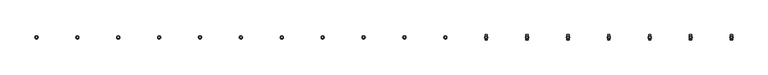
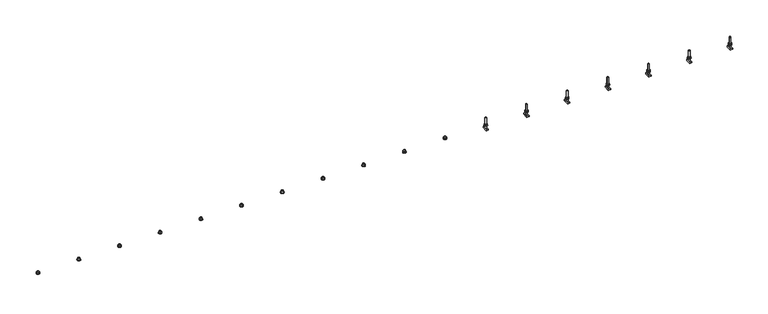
"""IFC4 building model written with IfcOpenShell, lengths in millimetres: fastener geometry, JTA-K JORDAHL® AnchorChannels : JTA-K L=6000 mm."""

from ifc_helpers import new_model, si_unit, point, frame, frame_2d, origin, place, context, project, spatial, polyline, circle_curve, trimmed, segment, composite_curve, outline, extrude, source, transform, mapped, element, save
from ifc_brep_helpers import plane_surface, cylinder_surface, advanced_brep


def fastener_529edd93(model_context):
    return source(origin(), model_context, "Body", "SolidModel", [
        extrude(outline(polyline([(5617.1052632, -10.3923048), (5608.1052632, -5.1961524), (5608.1052632, 5.1961524), (5617.1052632, 10.3923048), (5626.1052632, 5.1961524), (5626.1052632, -5.1961524), (5617.1052632, -10.3923048)]), holes=[composite_curve([segment(trimmed(circle_curve(frame_2d((5617.1052632, 0.0)), 6.0), [point((5611.1052632, 0.0))], [point((5623.1052632, 0.0))], True, "CARTESIAN"), True, "CONTINUOUS"), segment(trimmed(circle_curve(frame_2d((5617.1052632, 0.0)), 6.0), [point((5623.1052632, 0.0))], [point((5611.1052632, 0.0))], True, "CARTESIAN"), True, "CONTINUOUS")], self_intersect=False)]), frame((0.0, 0.0, 17.5), z_axis=(0.0, 0.0, 1.0), x_axis=(1.0, 0.0, 0.0)), (0.0, 0.0, 1.0), 10.8),
        extrude(outline(composite_curve([segment(trimmed(circle_curve(frame_2d((5617.1052632, 0.0)), 12.0), [point((5605.1052632, 0.0))], [point((5629.1052632, 0.0))], False, "CARTESIAN"), True, "CONTINUOUS"), segment(trimmed(circle_curve(frame_2d((5617.1052632, 0.0)), 12.0), [point((5629.1052632, 0.0))], [point((5605.1052632, 0.0))], False, "CARTESIAN"), True, "CONTINUOUS")], self_intersect=False), holes=[composite_curve([segment(trimmed(circle_curve(frame_2d((5617.1052632, 0.0)), 6.5), [point((5610.6052632, 0.0))], [point((5623.6052632, 0.0))], True, "CARTESIAN"), True, "CONTINUOUS"), segment(trimmed(circle_curve(frame_2d((5617.1052632, 0.0)), 6.5), [point((5623.6052632, 0.0))], [point((5610.6052632, 0.0))], True, "CARTESIAN"), True, "CONTINUOUS")], self_intersect=False)]), frame((0.0, 0.0, 15.0), z_axis=(0.0, 0.0, 1.0), x_axis=(1.0, 0.0, 0.0)), (0.0, 0.0, 1.0), 2.5),
        extrude(outline(polyline([(5309.2105263, -10.3923048), (5300.2105263, -5.1961524), (5300.2105263, 5.1961524), (5309.2105263, 10.3923048), (5318.2105263, 5.1961524), (5318.2105263, -5.1961524), (5309.2105263, -10.3923048)]), holes=[composite_curve([segment(trimmed(circle_curve(frame_2d((5309.2105263, 0.0)), 6.0), [point((5303.2105263, 0.0))], [point((5315.2105263, 0.0))], True, "CARTESIAN"), True, "CONTINUOUS"), segment(trimmed(circle_curve(frame_2d((5309.2105263, 0.0)), 6.0), [point((5315.2105263, 0.0))], [point((5303.2105263, 0.0))], True, "CARTESIAN"), True, "CONTINUOUS")], self_intersect=False)]), frame((0.0, 0.0, 17.5), z_axis=(0.0, 0.0, 1.0), x_axis=(1.0, 0.0, 0.0)), (0.0, 0.0, 1.0), 10.8),
        extrude(outline(composite_curve([segment(trimmed(circle_curve(frame_2d((5309.2105263, 0.0)), 12.0), [point((5297.2105263, 0.0))], [point((5321.2105263, 0.0))], False, "CARTESIAN"), True, "CONTINUOUS"), segment(trimmed(circle_curve(frame_2d((5309.2105263, 0.0)), 12.0), [point((5321.2105263, 0.0))], [point((5297.2105263, 0.0))], False, "CARTESIAN"), True, "CONTINUOUS")], self_intersect=False), holes=[composite_curve([segment(trimmed(circle_curve(frame_2d((5309.2105263, 0.0)), 6.5), [point((5302.7105263, 0.0))], [point((5315.7105263, 0.0))], True, "CARTESIAN"), True, "CONTINUOUS"), segment(trimmed(circle_curve(frame_2d((5309.2105263, 0.0)), 6.5), [point((5315.7105263, 0.0))], [point((5302.7105263, 0.0))], True, "CARTESIAN"), True, "CONTINUOUS")], self_intersect=False)]), frame((0.0, 0.0, 15.0), z_axis=(0.0, 0.0, 1.0), x_axis=(1.0, 0.0, 0.0)), (0.0, 0.0, 1.0), 2.5),
        extrude(outline(polyline([(5001.3157895, -10.3923048), (4992.3157895, -5.1961524), (4992.3157895, 5.1961524), (5001.3157895, 10.3923048), (5010.3157895, 5.1961524), (5010.3157895, -5.1961524), (5001.3157895, -10.3923048)]), holes=[composite_curve([segment(trimmed(circle_curve(frame_2d((5001.3157895, 0.0)), 6.0), [point((4995.3157895, 0.0))], [point((5007.3157895, 0.0))], True, "CARTESIAN"), True, "CONTINUOUS"), segment(trimmed(circle_curve(frame_2d((5001.3157895, 0.0)), 6.0), [point((5007.3157895, 0.0))], [point((4995.3157895, 0.0))], True, "CARTESIAN"), True, "CONTINUOUS")], self_intersect=False)]), frame((0.0, 0.0, 17.5), z_axis=(0.0, 0.0, 1.0), x_axis=(1.0, 0.0, 0.0)), (0.0, 0.0, 1.0), 10.8),
        extrude(outline(composite_curve([segment(trimmed(circle_curve(frame_2d((5001.3157895, 0.0)), 12.0), [point((4989.3157895, 0.0))], [point((5013.3157895, 0.0))], False, "CARTESIAN"), True, "CONTINUOUS"), segment(trimmed(circle_curve(frame_2d((5001.3157895, 0.0)), 12.0), [point((5013.3157895, 0.0))], [point((4989.3157895, 0.0))], False, "CARTESIAN"), True, "CONTINUOUS")], self_intersect=False), holes=[composite_curve([segment(trimmed(circle_curve(frame_2d((5001.3157895, 0.0)), 6.5), [point((4994.8157895, 0.0))], [point((5007.8157895, 0.0))], True, "CARTESIAN"), True, "CONTINUOUS"), segment(trimmed(circle_curve(frame_2d((5001.3157895, 0.0)), 6.5), [point((5007.8157895, 0.0))], [point((4994.8157895, 0.0))], True, "CARTESIAN"), True, "CONTINUOUS")], self_intersect=False)]), frame((0.0, 0.0, 15.0), z_axis=(0.0, 0.0, 1.0), x_axis=(1.0, 0.0, 0.0)), (0.0, 0.0, 1.0), 2.5),
        extrude(outline(polyline([(4693.4210526, -10.3923048), (4684.4210526, -5.1961524), (4684.4210526, 5.1961524), (4693.4210526, 10.3923048), (4702.4210526, 5.1961524), (4702.4210526, -5.1961524), (4693.4210526, -10.3923048)]), holes=[composite_curve([segment(trimmed(circle_curve(frame_2d((4693.4210526, 0.0)), 6.0), [point((4687.4210526, 0.0))], [point((4699.4210526, 0.0))], True, "CARTESIAN"), True, "CONTINUOUS"), segment(trimmed(circle_curve(frame_2d((4693.4210526, 0.0)), 6.0), [point((4699.4210526, 0.0))], [point((4687.4210526, 0.0))], True, "CARTESIAN"), True, "CONTINUOUS")], self_intersect=False)]), frame((0.0, 0.0, 17.5), z_axis=(0.0, 0.0, 1.0), x_axis=(1.0, 0.0, 0.0)), (0.0, 0.0, 1.0), 10.8),
        extrude(outline(composite_curve([segment(trimmed(circle_curve(frame_2d((4693.4210526, 0.0)), 12.0), [point((4681.4210526, 0.0))], [point((4705.4210526, 0.0))], False, "CARTESIAN"), True, "CONTINUOUS"), segment(trimmed(circle_curve(frame_2d((4693.4210526, 0.0)), 12.0), [point((4705.4210526, 0.0))], [point((4681.4210526, 0.0))], False, "CARTESIAN"), True, "CONTINUOUS")], self_intersect=False), holes=[composite_curve([segment(trimmed(circle_curve(frame_2d((4693.4210526, 0.0)), 6.5), [point((4686.9210526, 0.0))], [point((4699.9210526, 0.0))], True, "CARTESIAN"), True, "CONTINUOUS"), segment(trimmed(circle_curve(frame_2d((4693.4210526, 0.0)), 6.5), [point((4699.9210526, 0.0))], [point((4686.9210526, 0.0))], True, "CARTESIAN"), True, "CONTINUOUS")], self_intersect=False)]), frame((0.0, 0.0, 15.0), z_axis=(0.0, 0.0, 1.0), x_axis=(1.0, 0.0, 0.0)), (0.0, 0.0, 1.0), 2.5),
        extrude(outline(polyline([(4385.5263158, -10.3923048), (4376.5263158, -5.1961524), (4376.5263158, 5.1961524), (4385.5263158, 10.3923048), (4394.5263158, 5.1961524), (4394.5263158, -5.1961524), (4385.5263158, -10.3923048)]), holes=[composite_curve([segment(trimmed(circle_curve(frame_2d((4385.5263158, 0.0)), 6.0), [point((4379.5263158, 0.0))], [point((4391.5263158, 0.0))], True, "CARTESIAN"), True, "CONTINUOUS"), segment(trimmed(circle_curve(frame_2d((4385.5263158, 0.0)), 6.0), [point((4391.5263158, 0.0))], [point((4379.5263158, 0.0))], True, "CARTESIAN"), True, "CONTINUOUS")], self_intersect=False)]), frame((0.0, 0.0, 17.5), z_axis=(0.0, 0.0, 1.0), x_axis=(1.0, 0.0, 0.0)), (0.0, 0.0, 1.0), 10.8),
        extrude(outline(composite_curve([segment(trimmed(circle_curve(frame_2d((4385.5263158, 0.0)), 12.0), [point((4373.5263158, 0.0))], [point((4397.5263158, 0.0))], False, "CARTESIAN"), True, "CONTINUOUS"), segment(trimmed(circle_curve(frame_2d((4385.5263158, 0.0)), 12.0), [point((4397.5263158, 0.0))], [point((4373.5263158, 0.0))], False, "CARTESIAN"), True, "CONTINUOUS")], self_intersect=False), holes=[composite_curve([segment(trimmed(circle_curve(frame_2d((4385.5263158, 0.0)), 6.5), [point((4379.0263158, 0.0))], [point((4392.0263158, 0.0))], True, "CARTESIAN"), True, "CONTINUOUS"), segment(trimmed(circle_curve(frame_2d((4385.5263158, 0.0)), 6.5), [point((4392.0263158, 0.0))], [point((4379.0263158, 0.0))], True, "CARTESIAN"), True, "CONTINUOUS")], self_intersect=False)]), frame((0.0, 0.0, 15.0), z_axis=(0.0, 0.0, 1.0), x_axis=(1.0, 0.0, 0.0)), (0.0, 0.0, 1.0), 2.5),
        extrude(outline(polyline([(4077.6315789, -10.3923048), (4068.6315789, -5.1961524), (4068.6315789, 5.1961524), (4077.6315789, 10.3923048), (4086.6315789, 5.1961524), (4086.6315789, -5.1961524), (4077.6315789, -10.3923048)]), holes=[composite_curve([segment(trimmed(circle_curve(frame_2d((4077.6315789, 0.0)), 6.0), [point((4071.6315789, 0.0))], [point((4083.6315789, 0.0))], True, "CARTESIAN"), True, "CONTINUOUS"), segment(trimmed(circle_curve(frame_2d((4077.6315789, 0.0)), 6.0), [point((4083.6315789, 0.0))], [point((4071.6315789, 0.0))], True, "CARTESIAN"), True, "CONTINUOUS")], self_intersect=False)]), frame((0.0, 0.0, 17.5), z_axis=(0.0, 0.0, 1.0), x_axis=(1.0, 0.0, 0.0)), (0.0, 0.0, 1.0), 10.8),
        extrude(outline(composite_curve([segment(trimmed(circle_curve(frame_2d((4077.6315789, 0.0)), 12.0), [point((4065.6315789, 0.0))], [point((4089.6315789, 0.0))], False, "CARTESIAN"), True, "CONTINUOUS"), segment(trimmed(circle_curve(frame_2d((4077.6315789, 0.0)), 12.0), [point((4089.6315789, 0.0))], [point((4065.6315789, 0.0))], False, "CARTESIAN"), True, "CONTINUOUS")], self_intersect=False), holes=[composite_curve([segment(trimmed(circle_curve(frame_2d((4077.6315789, 0.0)), 6.5), [point((4071.1315789, 0.0))], [point((4084.1315789, 0.0))], True, "CARTESIAN"), True, "CONTINUOUS"), segment(trimmed(circle_curve(frame_2d((4077.6315789, 0.0)), 6.5), [point((4084.1315789, 0.0))], [point((4071.1315789, 0.0))], True, "CARTESIAN"), True, "CONTINUOUS")], self_intersect=False)]), frame((0.0, 0.0, 15.0), z_axis=(0.0, 0.0, 1.0), x_axis=(1.0, 0.0, 0.0)), (0.0, 0.0, 1.0), 2.5),
        extrude(outline(polyline([(3769.7368421, -10.3923048), (3760.7368421, -5.1961524), (3760.7368421, 5.1961524), (3769.7368421, 10.3923048), (3778.7368421, 5.1961524), (3778.7368421, -5.1961524), (3769.7368421, -10.3923048)]), holes=[composite_curve([segment(trimmed(circle_curve(frame_2d((3769.7368421, 0.0)), 6.0), [point((3763.7368421, 0.0))], [point((3775.7368421, 0.0))], True, "CARTESIAN"), True, "CONTINUOUS"), segment(trimmed(circle_curve(frame_2d((3769.7368421, 0.0)), 6.0), [point((3775.7368421, 0.0))], [point((3763.7368421, 0.0))], True, "CARTESIAN"), True, "CONTINUOUS")], self_intersect=False)]), frame((0.0, 0.0, 17.5), z_axis=(0.0, 0.0, 1.0), x_axis=(1.0, 0.0, 0.0)), (0.0, 0.0, 1.0), 10.8),
        extrude(outline(composite_curve([segment(trimmed(circle_curve(frame_2d((3769.7368421, 0.0)), 12.0), [point((3757.7368421, 0.0))], [point((3781.7368421, 0.0))], False, "CARTESIAN"), True, "CONTINUOUS"), segment(trimmed(circle_curve(frame_2d((3769.7368421, 0.0)), 12.0), [point((3781.7368421, 0.0))], [point((3757.7368421, 0.0))], False, "CARTESIAN"), True, "CONTINUOUS")], self_intersect=False), holes=[composite_curve([segment(trimmed(circle_curve(frame_2d((3769.7368421, 0.0)), 6.5), [point((3763.2368421, 0.0))], [point((3776.2368421, 0.0))], True, "CARTESIAN"), True, "CONTINUOUS"), segment(trimmed(circle_curve(frame_2d((3769.7368421, 0.0)), 6.5), [point((3776.2368421, 0.0))], [point((3763.2368421, 0.0))], True, "CARTESIAN"), True, "CONTINUOUS")], self_intersect=False)]), frame((0.0, 0.0, 15.0), z_axis=(0.0, 0.0, 1.0), x_axis=(1.0, 0.0, 0.0)), (0.0, 0.0, 1.0), 2.5),
        extrude(outline(polyline([(3461.8421053, -10.3923048), (3452.8421053, -5.1961524), (3452.8421053, 5.1961524), (3461.8421053, 10.3923048), (3470.8421053, 5.1961524), (3470.8421053, -5.1961524), (3461.8421053, -10.3923048)]), holes=[composite_curve([segment(trimmed(circle_curve(frame_2d((3461.8421053, 0.0)), 6.0), [point((3455.8421053, 0.0))], [point((3467.8421053, 0.0))], True, "CARTESIAN"), True, "CONTINUOUS"), segment(trimmed(circle_curve(frame_2d((3461.8421053, 0.0)), 6.0), [point((3467.8421053, 0.0))], [point((3455.8421053, 0.0))], True, "CARTESIAN"), True, "CONTINUOUS")], self_intersect=False)]), frame((0.0, 0.0, 17.5), z_axis=(0.0, 0.0, 1.0), x_axis=(1.0, 0.0, 0.0)), (0.0, 0.0, 1.0), 10.8),
        extrude(outline(composite_curve([segment(trimmed(circle_curve(frame_2d((3461.8421053, 0.0)), 12.0), [point((3449.8421053, 0.0))], [point((3473.8421053, 0.0))], False, "CARTESIAN"), True, "CONTINUOUS"), segment(trimmed(circle_curve(frame_2d((3461.8421053, 0.0)), 12.0), [point((3473.8421053, 0.0))], [point((3449.8421053, 0.0))], False, "CARTESIAN"), True, "CONTINUOUS")], self_intersect=False), holes=[composite_curve([segment(trimmed(circle_curve(frame_2d((3461.8421053, 0.0)), 6.5), [point((3455.3421053, 0.0))], [point((3468.3421053, 0.0))], True, "CARTESIAN"), True, "CONTINUOUS"), segment(trimmed(circle_curve(frame_2d((3461.8421053, 0.0)), 6.5), [point((3468.3421053, 0.0))], [point((3455.3421053, 0.0))], True, "CARTESIAN"), True, "CONTINUOUS")], self_intersect=False)]), frame((0.0, 0.0, 15.0), z_axis=(0.0, 0.0, 1.0), x_axis=(1.0, 0.0, 0.0)), (0.0, 0.0, 1.0), 2.5),
        extrude(outline(polyline([(3153.9473684, -10.3923048), (3144.9473684, -5.1961524), (3144.9473684, 5.1961524), (3153.9473684, 10.3923048), (3162.9473684, 5.1961524), (3162.9473684, -5.1961524), (3153.9473684, -10.3923048)]), holes=[composite_curve([segment(trimmed(circle_curve(frame_2d((3153.9473684, 0.0)), 6.0), [point((3147.9473684, 0.0))], [point((3159.9473684, 0.0))], True, "CARTESIAN"), True, "CONTINUOUS"), segment(trimmed(circle_curve(frame_2d((3153.9473684, 0.0)), 6.0), [point((3159.9473684, 0.0))], [point((3147.9473684, 0.0))], True, "CARTESIAN"), True, "CONTINUOUS")], self_intersect=False)]), frame((0.0, 0.0, 17.5), z_axis=(0.0, 0.0, 1.0), x_axis=(1.0, 0.0, 0.0)), (0.0, 0.0, 1.0), 10.8),
        extrude(outline(composite_curve([segment(trimmed(circle_curve(frame_2d((3153.9473684, 0.0)), 12.0), [point((3141.9473684, 0.0))], [point((3165.9473684, 0.0))], False, "CARTESIAN"), True, "CONTINUOUS"), segment(trimmed(circle_curve(frame_2d((3153.9473684, 0.0)), 12.0), [point((3165.9473684, 0.0))], [point((3141.9473684, 0.0))], False, "CARTESIAN"), True, "CONTINUOUS")], self_intersect=False), holes=[composite_curve([segment(trimmed(circle_curve(frame_2d((3153.9473684, 0.0)), 6.5), [point((3147.4473684, 0.0))], [point((3160.4473684, 0.0))], True, "CARTESIAN"), True, "CONTINUOUS"), segment(trimmed(circle_curve(frame_2d((3153.9473684, 0.0)), 6.5), [point((3160.4473684, 0.0))], [point((3147.4473684, 0.0))], True, "CARTESIAN"), True, "CONTINUOUS")], self_intersect=False)]), frame((0.0, 0.0, 15.0), z_axis=(0.0, 0.0, 1.0), x_axis=(1.0, 0.0, 0.0)), (0.0, 0.0, 1.0), 2.5),
        extrude(outline(polyline([(2846.0526316, -10.3923048), (2837.0526316, -5.1961524), (2837.0526316, 5.1961524), (2846.0526316, 10.3923048), (2855.0526316, 5.1961524), (2855.0526316, -5.1961524), (2846.0526316, -10.3923048)]), holes=[composite_curve([segment(trimmed(circle_curve(frame_2d((2846.0526316, 0.0)), 6.0), [point((2840.0526316, 0.0))], [point((2852.0526316, 0.0))], True, "CARTESIAN"), True, "CONTINUOUS"), segment(trimmed(circle_curve(frame_2d((2846.0526316, 0.0)), 6.0), [point((2852.0526316, 0.0))], [point((2840.0526316, 0.0))], True, "CARTESIAN"), True, "CONTINUOUS")], self_intersect=False)]), frame((0.0, 0.0, 17.5), z_axis=(0.0, 0.0, 1.0), x_axis=(1.0, 0.0, 0.0)), (0.0, 0.0, 1.0), 10.8),
        extrude(outline(composite_curve([segment(trimmed(circle_curve(frame_2d((2846.0526316, 0.0)), 12.0), [point((2834.0526316, 0.0))], [point((2858.0526316, 0.0))], False, "CARTESIAN"), True, "CONTINUOUS"), segment(trimmed(circle_curve(frame_2d((2846.0526316, 0.0)), 12.0), [point((2858.0526316, 0.0))], [point((2834.0526316, 0.0))], False, "CARTESIAN"), True, "CONTINUOUS")], self_intersect=False), holes=[composite_curve([segment(trimmed(circle_curve(frame_2d((2846.0526316, 0.0)), 6.5), [point((2839.5526316, 0.0))], [point((2852.5526316, 0.0))], True, "CARTESIAN"), True, "CONTINUOUS"), segment(trimmed(circle_curve(frame_2d((2846.0526316, 0.0)), 6.5), [point((2852.5526316, 0.0))], [point((2839.5526316, 0.0))], True, "CARTESIAN"), True, "CONTINUOUS")], self_intersect=False)]), frame((0.0, 0.0, 15.0), z_axis=(0.0, 0.0, 1.0), x_axis=(1.0, 0.0, 0.0)), (0.0, 0.0, 1.0), 2.5),
        extrude(outline(polyline([(2538.1578947, -10.3923048), (2529.1578947, -5.1961524), (2529.1578947, 5.1961524), (2538.1578947, 10.3923048), (2547.1578947, 5.1961524), (2547.1578947, -5.1961524), (2538.1578947, -10.3923048)]), holes=[composite_curve([segment(trimmed(circle_curve(frame_2d((2538.1578947, 0.0)), 6.0), [point((2532.1578947, 0.0))], [point((2544.1578947, 0.0))], True, "CARTESIAN"), True, "CONTINUOUS"), segment(trimmed(circle_curve(frame_2d((2538.1578947, 0.0)), 6.0), [point((2544.1578947, 0.0))], [point((2532.1578947, 0.0))], True, "CARTESIAN"), True, "CONTINUOUS")], self_intersect=False)]), frame((0.0, 0.0, 17.5), z_axis=(0.0, 0.0, 1.0), x_axis=(1.0, 0.0, 0.0)), (0.0, 0.0, 1.0), 10.8),
        extrude(outline(composite_curve([segment(trimmed(circle_curve(frame_2d((2538.1578947, 0.0)), 12.0), [point((2526.1578947, 0.0))], [point((2550.1578947, 0.0))], False, "CARTESIAN"), True, "CONTINUOUS"), segment(trimmed(circle_curve(frame_2d((2538.1578947, 0.0)), 12.0), [point((2550.1578947, 0.0))], [point((2526.1578947, 0.0))], False, "CARTESIAN"), True, "CONTINUOUS")], self_intersect=False), holes=[composite_curve([segment(trimmed(circle_curve(frame_2d((2538.1578947, 0.0)), 6.5), [point((2531.6578947, 0.0))], [point((2544.6578947, 0.0))], True, "CARTESIAN"), True, "CONTINUOUS"), segment(trimmed(circle_curve(frame_2d((2538.1578947, 0.0)), 6.5), [point((2544.6578947, 0.0))], [point((2531.6578947, 0.0))], True, "CARTESIAN"), True, "CONTINUOUS")], self_intersect=False)]), frame((0.0, 0.0, 15.0), z_axis=(0.0, 0.0, 1.0), x_axis=(1.0, 0.0, 0.0)), (0.0, 0.0, 1.0), 2.5),
        extrude(outline(polyline([(2230.2631579, -10.3923048), (2221.2631579, -5.1961524), (2221.2631579, 5.1961524), (2230.2631579, 10.3923048), (2239.2631579, 5.1961524), (2239.2631579, -5.1961524), (2230.2631579, -10.3923048)]), holes=[composite_curve([segment(trimmed(circle_curve(frame_2d((2230.2631579, 0.0)), 6.0), [point((2224.2631579, 0.0))], [point((2236.2631579, 0.0))], True, "CARTESIAN"), True, "CONTINUOUS"), segment(trimmed(circle_curve(frame_2d((2230.2631579, 0.0)), 6.0), [point((2236.2631579, 0.0))], [point((2224.2631579, 0.0))], True, "CARTESIAN"), True, "CONTINUOUS")], self_intersect=False)]), frame((0.0, 0.0, 17.5), z_axis=(0.0, 0.0, 1.0), x_axis=(1.0, 0.0, 0.0)), (0.0, 0.0, 1.0), 10.8),
        extrude(outline(composite_curve([segment(trimmed(circle_curve(frame_2d((2230.2631579, 0.0)), 12.0), [point((2218.2631579, 0.0))], [point((2242.2631579, 0.0))], False, "CARTESIAN"), True, "CONTINUOUS"), segment(trimmed(circle_curve(frame_2d((2230.2631579, 0.0)), 12.0), [point((2242.2631579, 0.0))], [point((2218.2631579, 0.0))], False, "CARTESIAN"), True, "CONTINUOUS")], self_intersect=False), holes=[composite_curve([segment(trimmed(circle_curve(frame_2d((2230.2631579, 0.0)), 6.5), [point((2223.7631579, 0.0))], [point((2236.7631579, 0.0))], True, "CARTESIAN"), True, "CONTINUOUS"), segment(trimmed(circle_curve(frame_2d((2230.2631579, 0.0)), 6.5), [point((2236.7631579, 0.0))], [point((2223.7631579, 0.0))], True, "CARTESIAN"), True, "CONTINUOUS")], self_intersect=False)]), frame((0.0, 0.0, 15.0), z_axis=(0.0, 0.0, 1.0), x_axis=(1.0, 0.0, 0.0)), (0.0, 0.0, 1.0), 2.5),
        extrude(outline(polyline([(1922.3684211, -10.3923048), (1913.3684211, -5.1961524), (1913.3684211, 5.1961524), (1922.3684211, 10.3923048), (1931.3684211, 5.1961524), (1931.3684211, -5.1961524), (1922.3684211, -10.3923048)]), holes=[composite_curve([segment(trimmed(circle_curve(frame_2d((1922.3684211, 0.0)), 6.0), [point((1916.3684211, 0.0))], [point((1928.3684211, 0.0))], True, "CARTESIAN"), True, "CONTINUOUS"), segment(trimmed(circle_curve(frame_2d((1922.3684211, 0.0)), 6.0), [point((1928.3684211, 0.0))], [point((1916.3684211, 0.0))], True, "CARTESIAN"), True, "CONTINUOUS")], self_intersect=False)]), frame((0.0, 0.0, 17.5), z_axis=(0.0, 0.0, 1.0), x_axis=(1.0, 0.0, 0.0)), (0.0, 0.0, 1.0), 10.8),
        extrude(outline(composite_curve([segment(trimmed(circle_curve(frame_2d((1922.3684211, 0.0)), 12.0), [point((1910.3684211, 0.0))], [point((1934.3684211, 0.0))], False, "CARTESIAN"), True, "CONTINUOUS"), segment(trimmed(circle_curve(frame_2d((1922.3684211, 0.0)), 12.0), [point((1934.3684211, 0.0))], [point((1910.3684211, 0.0))], False, "CARTESIAN"), True, "CONTINUOUS")], self_intersect=False), holes=[composite_curve([segment(trimmed(circle_curve(frame_2d((1922.3684211, 0.0)), 6.5), [point((1915.8684211, 0.0))], [point((1928.8684211, 0.0))], True, "CARTESIAN"), True, "CONTINUOUS"), segment(trimmed(circle_curve(frame_2d((1922.3684211, 0.0)), 6.5), [point((1928.8684211, 0.0))], [point((1915.8684211, 0.0))], True, "CARTESIAN"), True, "CONTINUOUS")], self_intersect=False)]), frame((0.0, 0.0, 15.0), z_axis=(0.0, 0.0, 1.0), x_axis=(1.0, 0.0, 0.0)), (0.0, 0.0, 1.0), 2.5),
        extrude(outline(polyline([(1614.4736842, -10.3923048), (1605.4736842, -5.1961524), (1605.4736842, 5.1961524), (1614.4736842, 10.3923048), (1623.4736842, 5.1961524), (1623.4736842, -5.1961524), (1614.4736842, -10.3923048)]), holes=[composite_curve([segment(trimmed(circle_curve(frame_2d((1614.4736842, 0.0)), 6.0), [point((1608.4736842, 0.0))], [point((1620.4736842, 0.0))], True, "CARTESIAN"), True, "CONTINUOUS"), segment(trimmed(circle_curve(frame_2d((1614.4736842, 0.0)), 6.0), [point((1620.4736842, 0.0))], [point((1608.4736842, 0.0))], True, "CARTESIAN"), True, "CONTINUOUS")], self_intersect=False)]), frame((0.0, 0.0, 17.5), z_axis=(0.0, 0.0, 1.0), x_axis=(1.0, 0.0, 0.0)), (0.0, 0.0, 1.0), 10.8),
        extrude(outline(composite_curve([segment(trimmed(circle_curve(frame_2d((1614.4736842, 0.0)), 12.0), [point((1602.4736842, 0.0))], [point((1626.4736842, 0.0))], False, "CARTESIAN"), True, "CONTINUOUS"), segment(trimmed(circle_curve(frame_2d((1614.4736842, 0.0)), 12.0), [point((1626.4736842, 0.0))], [point((1602.4736842, 0.0))], False, "CARTESIAN"), True, "CONTINUOUS")], self_intersect=False), holes=[composite_curve([segment(trimmed(circle_curve(frame_2d((1614.4736842, 0.0)), 6.5), [point((1607.9736842, 0.0))], [point((1620.9736842, 0.0))], True, "CARTESIAN"), True, "CONTINUOUS"), segment(trimmed(circle_curve(frame_2d((1614.4736842, 0.0)), 6.5), [point((1620.9736842, 0.0))], [point((1607.9736842, 0.0))], True, "CARTESIAN"), True, "CONTINUOUS")], self_intersect=False)]), frame((0.0, 0.0, 15.0), z_axis=(0.0, 0.0, 1.0), x_axis=(1.0, 0.0, 0.0)), (0.0, 0.0, 1.0), 2.5),
        extrude(outline(polyline([(1306.5789474, -10.3923048), (1297.5789474, -5.1961524), (1297.5789474, 5.1961524), (1306.5789474, 10.3923048), (1315.5789474, 5.1961524), (1315.5789474, -5.1961524), (1306.5789474, -10.3923048)]), holes=[composite_curve([segment(trimmed(circle_curve(frame_2d((1306.5789474, 0.0)), 6.0), [point((1300.5789474, 0.0))], [point((1312.5789474, 0.0))], True, "CARTESIAN"), True, "CONTINUOUS"), segment(trimmed(circle_curve(frame_2d((1306.5789474, 0.0)), 6.0), [point((1312.5789474, 0.0))], [point((1300.5789474, 0.0))], True, "CARTESIAN"), True, "CONTINUOUS")], self_intersect=False)]), frame((0.0, 0.0, 17.5), z_axis=(0.0, 0.0, 1.0), x_axis=(1.0, 0.0, 0.0)), (0.0, 0.0, 1.0), 10.8),
        extrude(outline(composite_curve([segment(trimmed(circle_curve(frame_2d((1306.5789474, 0.0)), 12.0), [point((1294.5789474, 0.0))], [point((1318.5789474, 0.0))], False, "CARTESIAN"), True, "CONTINUOUS"), segment(trimmed(circle_curve(frame_2d((1306.5789474, 0.0)), 12.0), [point((1318.5789474, 0.0))], [point((1294.5789474, 0.0))], False, "CARTESIAN"), True, "CONTINUOUS")], self_intersect=False), holes=[composite_curve([segment(trimmed(circle_curve(frame_2d((1306.5789474, 0.0)), 6.5), [point((1300.0789474, 0.0))], [point((1313.0789474, 0.0))], True, "CARTESIAN"), True, "CONTINUOUS"), segment(trimmed(circle_curve(frame_2d((1306.5789474, 0.0)), 6.5), [point((1313.0789474, 0.0))], [point((1300.0789474, 0.0))], True, "CARTESIAN"), True, "CONTINUOUS")], self_intersect=False)]), frame((0.0, 0.0, 15.0), z_axis=(0.0, 0.0, 1.0), x_axis=(1.0, 0.0, 0.0)), (0.0, 0.0, 1.0), 2.5),
        extrude(outline(polyline([(998.6842105, -10.3923048), (989.6842105, -5.1961524), (989.6842105, 5.1961524), (998.6842105, 10.3923048), (1007.6842105, 5.1961524), (1007.6842105, -5.1961524), (998.6842105, -10.3923048)]), holes=[composite_curve([segment(trimmed(circle_curve(frame_2d((998.6842105, 0.0)), 6.0), [point((992.6842105, 0.0))], [point((1004.6842105, 0.0))], True, "CARTESIAN"), True, "CONTINUOUS"), segment(trimmed(circle_curve(frame_2d((998.6842105, 0.0)), 6.0), [point((1004.6842105, 0.0))], [point((992.6842105, 0.0))], True, "CARTESIAN"), True, "CONTINUOUS")], self_intersect=False)]), frame((0.0, 0.0, 17.5), z_axis=(0.0, 0.0, 1.0), x_axis=(1.0, 0.0, 0.0)), (0.0, 0.0, 1.0), 10.8),
        extrude(outline(composite_curve([segment(trimmed(circle_curve(frame_2d((998.6842105, 0.0)), 12.0), [point((986.6842105, 0.0))], [point((1010.6842105, 0.0))], False, "CARTESIAN"), True, "CONTINUOUS"), segment(trimmed(circle_curve(frame_2d((998.6842105, 0.0)), 12.0), [point((1010.6842105, 0.0))], [point((986.6842105, 0.0))], False, "CARTESIAN"), True, "CONTINUOUS")], self_intersect=False), holes=[composite_curve([segment(trimmed(circle_curve(frame_2d((998.6842105, 0.0)), 6.5), [point((992.1842105, 0.0))], [point((1005.1842105, 0.0))], True, "CARTESIAN"), True, "CONTINUOUS"), segment(trimmed(circle_curve(frame_2d((998.6842105, 0.0)), 6.5), [point((1005.1842105, 0.0))], [point((992.1842105, 0.0))], True, "CARTESIAN"), True, "CONTINUOUS")], self_intersect=False)]), frame((0.0, 0.0, 15.0), z_axis=(0.0, 0.0, 1.0), x_axis=(1.0, 0.0, 0.0)), (0.0, 0.0, 1.0), 2.5),
        extrude(outline(polyline([(690.7894737, -10.3923048), (681.7894737, -5.1961524), (681.7894737, 5.1961524), (690.7894737, 10.3923048), (699.7894737, 5.1961524), (699.7894737, -5.1961524), (690.7894737, -10.3923048)]), holes=[composite_curve([segment(trimmed(circle_curve(frame_2d((690.7894737, 0.0)), 6.0), [point((684.7894737, 0.0))], [point((696.7894737, 0.0))], True, "CARTESIAN"), True, "CONTINUOUS"), segment(trimmed(circle_curve(frame_2d((690.7894737, 0.0)), 6.0), [point((696.7894737, 0.0))], [point((684.7894737, 0.0))], True, "CARTESIAN"), True, "CONTINUOUS")], self_intersect=False)]), frame((0.0, 0.0, 17.5), z_axis=(0.0, 0.0, 1.0), x_axis=(1.0, 0.0, 0.0)), (0.0, 0.0, 1.0), 10.8),
        extrude(outline(composite_curve([segment(trimmed(circle_curve(frame_2d((690.7894737, 0.0)), 12.0), [point((678.7894737, 0.0))], [point((702.7894737, 0.0))], False, "CARTESIAN"), True, "CONTINUOUS"), segment(trimmed(circle_curve(frame_2d((690.7894737, 0.0)), 12.0), [point((702.7894737, 0.0))], [point((678.7894737, 0.0))], False, "CARTESIAN"), True, "CONTINUOUS")], self_intersect=False), holes=[composite_curve([segment(trimmed(circle_curve(frame_2d((690.7894737, 0.0)), 6.5), [point((684.2894737, 0.0))], [point((697.2894737, 0.0))], True, "CARTESIAN"), True, "CONTINUOUS"), segment(trimmed(circle_curve(frame_2d((690.7894737, 0.0)), 6.5), [point((697.2894737, 0.0))], [point((684.2894737, 0.0))], True, "CARTESIAN"), True, "CONTINUOUS")], self_intersect=False)]), frame((0.0, 0.0, 15.0), z_axis=(0.0, 0.0, 1.0), x_axis=(1.0, 0.0, 0.0)), (0.0, 0.0, 1.0), 2.5),
        extrude(outline(polyline([(382.8947368, -10.3923048), (373.8947368, -5.1961524), (373.8947368, 5.1961524), (382.8947368, 10.3923048), (391.8947368, 5.1961524), (391.8947368, -5.1961524), (382.8947368, -10.3923048)]), holes=[composite_curve([segment(trimmed(circle_curve(frame_2d((382.8947368, 0.0)), 6.0), [point((376.8947368, 0.0))], [point((388.8947368, 0.0))], True, "CARTESIAN"), True, "CONTINUOUS"), segment(trimmed(circle_curve(frame_2d((382.8947368, 0.0)), 6.0), [point((388.8947368, 0.0))], [point((376.8947368, 0.0))], True, "CARTESIAN"), True, "CONTINUOUS")], self_intersect=False)]), frame((0.0, 0.0, 17.5), z_axis=(0.0, 0.0, 1.0), x_axis=(1.0, 0.0, 0.0)), (0.0, 0.0, 1.0), 10.8),
        extrude(outline(composite_curve([segment(trimmed(circle_curve(frame_2d((382.8947368, 0.0)), 12.0), [point((370.8947368, 0.0))], [point((394.8947368, 0.0))], False, "CARTESIAN"), True, "CONTINUOUS"), segment(trimmed(circle_curve(frame_2d((382.8947368, 0.0)), 12.0), [point((394.8947368, 0.0))], [point((370.8947368, 0.0))], False, "CARTESIAN"), True, "CONTINUOUS")], self_intersect=False), holes=[composite_curve([segment(trimmed(circle_curve(frame_2d((382.8947368, 0.0)), 6.5), [point((376.3947368, 0.0))], [point((389.3947368, 0.0))], True, "CARTESIAN"), True, "CONTINUOUS"), segment(trimmed(circle_curve(frame_2d((382.8947368, 0.0)), 6.5), [point((389.3947368, 0.0))], [point((376.3947368, 0.0))], True, "CARTESIAN"), True, "CONTINUOUS")], self_intersect=False)]), frame((0.0, 0.0, 15.0), z_axis=(0.0, 0.0, 1.0), x_axis=(1.0, 0.0, 0.0)), (0.0, 0.0, 1.0), 2.5),
        advanced_brep(
        [(5625.6052632, -20.7, -4.5), (5625.6052632, -20.7, -14.5), (5625.6052632, 20.7, -14.5), (5625.6052632, 20.7, -4.5), (5608.6052632, -20.7, -4.5), (5608.6052632, 20.7, -4.5), (5608.6052632, 20.7, -14.5), (5608.6052632, -20.7, -14.5), (5623.1052632, 0.0, -4.5), (5611.1052632, 0.0, -4.5), (5611.1052632, 0.0, 75.5), (5623.1052632, 0.0, 75.5)],
        [
            (0, 1),
            (1, 2),
            (2, 3),
            (3, 0),
            (4, 5),
            (5, 6),
            (6, 7),
            (7, 4),
            (3, 5),
            (4, 0),
            (8, 9, circle_curve(frame((5617.1052632, 0.0, -4.5), z_axis=(0.0, 0.0, -1.0), x_axis=(1.0, 0.0, 0.0)), 6.0)),
            (9, 8, circle_curve(frame((5617.1052632, 0.0, -4.5), z_axis=(0.0, 0.0, -1.0), x_axis=(1.0, 0.0, 0.0)), 6.0)),
            (2, 6),
            (1, 7),
            (10, 11, circle_curve(frame((5617.1052632, 0.0, 75.5), z_axis=(0.0, 0.0, 1.0), x_axis=(1.0, 0.0, 0.0)), 6.0)),
            (11, 10, circle_curve(frame((5617.1052632, 0.0, 75.5), z_axis=(0.0, 0.0, 1.0), x_axis=(1.0, 0.0, 0.0)), 6.0)),
            (11, 8),
            (9, 10),
        ],
        [
            plane_surface(frame((5625.6052632, 20.7, -4.5), z_axis=(1.0, 0.0, 0.0), x_axis=(0.0, 1.0, 0.0))),
            plane_surface(frame((5608.6052632, 20.7, -4.5), z_axis=(-1.0, 0.0, 0.0), x_axis=(0.0, -1.0, 0.0))),
            plane_surface(frame((5625.6052632, -20.7, -4.5), z_axis=(0.0, 0.0, 1.0), x_axis=(-1.0, 0.0, 0.0))),
            plane_surface(frame((5625.6052632, 20.7, -4.5), z_axis=(0.0, 1.0, 0.0), x_axis=(-1.0, 0.0, 0.0))),
            plane_surface(frame((5625.6052632, 20.7, -14.5), z_axis=(0.0, 0.0, -1.0), x_axis=(-1.0, 0.0, 0.0))),
            plane_surface(frame((5625.6052632, -20.7, -14.5), z_axis=(0.0, -1.0, 0.0), x_axis=(-1.0, 0.0, 0.0))),
            plane_surface(frame((5623.1052632, 0.0, 75.5), z_axis=(0.0, 0.0, 1.0), x_axis=(0.0, -1.0, 0.0))),
            cylinder_surface(frame((5617.1052632, 0.0, -4.5), z_axis=(0.0, 0.0, 1.0), x_axis=(1.0, 0.0, 0.0)), 6.0),
        ],
        [
            (0, [[1, 2, 3, 4]]),
            (1, [[5, 6, 7, 8]]),
            (2, [[9, -5, 10, -4], [11, 12]]),
            (3, [[13, -6, -9, -3]]),
            (4, [[14, -7, -13, -2]]),
            (5, [[-10, -8, -14, -1]]),
            (6, [[15, 16]]),
            (7, [[17, -12, 18, -16]]),
            (7, [[-18, -11, -17, -15]]),
        ],
    ),
        advanced_brep(
        [(5317.7105263, -20.7, -4.5), (5317.7105263, -20.7, -14.5), (5317.7105263, 20.7, -14.5), (5317.7105263, 20.7, -4.5), (5300.7105263, -20.7, -4.5), (5300.7105263, 20.7, -4.5), (5300.7105263, 20.7, -14.5), (5300.7105263, -20.7, -14.5), (5315.2105263, 0.0, -4.5), (5303.2105263, 0.0, -4.5), (5303.2105263, 0.0, 75.5), (5315.2105263, 0.0, 75.5)],
        [
            (0, 1),
            (1, 2),
            (2, 3),
            (3, 0),
            (4, 5),
            (5, 6),
            (6, 7),
            (7, 4),
            (3, 5),
            (4, 0),
            (8, 9, circle_curve(frame((5309.2105263, 0.0, -4.5), z_axis=(0.0, 0.0, -1.0), x_axis=(1.0, 0.0, 0.0)), 6.0)),
            (9, 8, circle_curve(frame((5309.2105263, 0.0, -4.5), z_axis=(0.0, 0.0, -1.0), x_axis=(1.0, 0.0, 0.0)), 6.0)),
            (2, 6),
            (1, 7),
            (10, 11, circle_curve(frame((5309.2105263, 0.0, 75.5), z_axis=(0.0, 0.0, 1.0), x_axis=(1.0, 0.0, 0.0)), 6.0)),
            (11, 10, circle_curve(frame((5309.2105263, 0.0, 75.5), z_axis=(0.0, 0.0, 1.0), x_axis=(1.0, 0.0, 0.0)), 6.0)),
            (11, 8),
            (9, 10),
        ],
        [
            plane_surface(frame((5317.7105263, 20.7, -4.5), z_axis=(1.0, 0.0, 0.0), x_axis=(0.0, 1.0, 0.0))),
            plane_surface(frame((5300.7105263, 20.7, -4.5), z_axis=(-1.0, 0.0, 0.0), x_axis=(0.0, -1.0, 0.0))),
            plane_surface(frame((5317.7105263, -20.7, -4.5), z_axis=(0.0, 0.0, 1.0), x_axis=(-1.0, 0.0, 0.0))),
            plane_surface(frame((5317.7105263, 20.7, -4.5), z_axis=(0.0, 1.0, 0.0), x_axis=(-1.0, 0.0, 0.0))),
            plane_surface(frame((5317.7105263, 20.7, -14.5), z_axis=(0.0, 0.0, -1.0), x_axis=(-1.0, 0.0, 0.0))),
            plane_surface(frame((5317.7105263, -20.7, -14.5), z_axis=(0.0, -1.0, 0.0), x_axis=(-1.0, 0.0, 0.0))),
            plane_surface(frame((5315.2105263, 0.0, 75.5), z_axis=(0.0, 0.0, 1.0), x_axis=(0.0, -1.0, 0.0))),
            cylinder_surface(frame((5309.2105263, 0.0, -4.5), z_axis=(0.0, 0.0, 1.0), x_axis=(1.0, 0.0, 0.0)), 6.0),
        ],
        [
            (0, [[1, 2, 3, 4]]),
            (1, [[5, 6, 7, 8]]),
            (2, [[9, -5, 10, -4], [11, 12]]),
            (3, [[13, -6, -9, -3]]),
            (4, [[14, -7, -13, -2]]),
            (5, [[-10, -8, -14, -1]]),
            (6, [[15, 16]]),
            (7, [[17, -12, 18, -16]]),
            (7, [[-18, -11, -17, -15]]),
        ],
    ),
        advanced_brep(
        [(5009.8157895, -20.7, -4.5), (5009.8157895, -20.7, -14.5), (5009.8157895, 20.7, -14.5), (5009.8157895, 20.7, -4.5), (4992.8157895, -20.7, -4.5), (4992.8157895, 20.7, -4.5), (4992.8157895, 20.7, -14.5), (4992.8157895, -20.7, -14.5), (5007.3157895, 0.0, -4.5), (4995.3157895, 0.0, -4.5), (4995.3157895, 0.0, 75.5), (5007.3157895, 0.0, 75.5)],
        [
            (0, 1),
            (1, 2),
            (2, 3),
            (3, 0),
            (4, 5),
            (5, 6),
            (6, 7),
            (7, 4),
            (3, 5),
            (4, 0),
            (8, 9, circle_curve(frame((5001.3157895, 0.0, -4.5), z_axis=(0.0, 0.0, -1.0), x_axis=(1.0, 0.0, 0.0)), 6.0)),
            (9, 8, circle_curve(frame((5001.3157895, 0.0, -4.5), z_axis=(0.0, 0.0, -1.0), x_axis=(1.0, 0.0, 0.0)), 6.0)),
            (2, 6),
            (1, 7),
            (10, 11, circle_curve(frame((5001.3157895, 0.0, 75.5), z_axis=(0.0, 0.0, 1.0), x_axis=(1.0, 0.0, 0.0)), 6.0)),
            (11, 10, circle_curve(frame((5001.3157895, 0.0, 75.5), z_axis=(0.0, 0.0, 1.0), x_axis=(1.0, 0.0, 0.0)), 6.0)),
            (11, 8),
            (9, 10),
        ],
        [
            plane_surface(frame((5009.8157895, 20.7, -4.5), z_axis=(1.0, 0.0, 0.0), x_axis=(0.0, 1.0, 0.0))),
            plane_surface(frame((4992.8157895, 20.7, -4.5), z_axis=(-1.0, 0.0, 0.0), x_axis=(0.0, -1.0, 0.0))),
            plane_surface(frame((5009.8157895, -20.7, -4.5), z_axis=(0.0, 0.0, 1.0), x_axis=(-1.0, 0.0, 0.0))),
            plane_surface(frame((5009.8157895, 20.7, -4.5), z_axis=(0.0, 1.0, 0.0), x_axis=(-1.0, 0.0, 0.0))),
            plane_surface(frame((5009.8157895, 20.7, -14.5), z_axis=(0.0, 0.0, -1.0), x_axis=(-1.0, 0.0, 0.0))),
            plane_surface(frame((5009.8157895, -20.7, -14.5), z_axis=(0.0, -1.0, 0.0), x_axis=(-1.0, 0.0, 0.0))),
            plane_surface(frame((5007.3157895, 0.0, 75.5), z_axis=(0.0, 0.0, 1.0), x_axis=(0.0, -1.0, 0.0))),
            cylinder_surface(frame((5001.3157895, 0.0, -4.5), z_axis=(0.0, 0.0, 1.0), x_axis=(1.0, 0.0, 0.0)), 6.0),
        ],
        [
            (0, [[1, 2, 3, 4]]),
            (1, [[5, 6, 7, 8]]),
            (2, [[9, -5, 10, -4], [11, 12]]),
            (3, [[13, -6, -9, -3]]),
            (4, [[14, -7, -13, -2]]),
            (5, [[-10, -8, -14, -1]]),
            (6, [[15, 16]]),
            (7, [[17, -12, 18, -16]]),
            (7, [[-18, -11, -17, -15]]),
        ],
    ),
        advanced_brep(
        [(4701.9210526, -20.7, -4.5), (4701.9210526, -20.7, -14.5), (4701.9210526, 20.7, -14.5), (4701.9210526, 20.7, -4.5), (4684.9210526, -20.7, -4.5), (4684.9210526, 20.7, -4.5), (4684.9210526, 20.7, -14.5), (4684.9210526, -20.7, -14.5), (4699.4210526, 0.0, -4.5), (4687.4210526, 0.0, -4.5), (4687.4210526, 0.0, 75.5), (4699.4210526, 0.0, 75.5)],
        [
            (0, 1),
            (1, 2),
            (2, 3),
            (3, 0),
            (4, 5),
            (5, 6),
            (6, 7),
            (7, 4),
            (3, 5),
            (4, 0),
            (8, 9, circle_curve(frame((4693.4210526, 0.0, -4.5), z_axis=(0.0, 0.0, -1.0), x_axis=(1.0, 0.0, 0.0)), 6.0)),
            (9, 8, circle_curve(frame((4693.4210526, 0.0, -4.5), z_axis=(0.0, 0.0, -1.0), x_axis=(1.0, 0.0, 0.0)), 6.0)),
            (2, 6),
            (1, 7),
            (10, 11, circle_curve(frame((4693.4210526, 0.0, 75.5), z_axis=(0.0, 0.0, 1.0), x_axis=(1.0, 0.0, 0.0)), 6.0)),
            (11, 10, circle_curve(frame((4693.4210526, 0.0, 75.5), z_axis=(0.0, 0.0, 1.0), x_axis=(1.0, 0.0, 0.0)), 6.0)),
            (11, 8),
            (9, 10),
        ],
        [
            plane_surface(frame((4701.9210526, 20.7, -4.5), z_axis=(1.0, 0.0, 0.0), x_axis=(0.0, 1.0, 0.0))),
            plane_surface(frame((4684.9210526, 20.7, -4.5), z_axis=(-1.0, 0.0, 0.0), x_axis=(0.0, -1.0, 0.0))),
            plane_surface(frame((4701.9210526, -20.7, -4.5), z_axis=(0.0, 0.0, 1.0), x_axis=(-1.0, 0.0, 0.0))),
            plane_surface(frame((4701.9210526, 20.7, -4.5), z_axis=(0.0, 1.0, 0.0), x_axis=(-1.0, 0.0, 0.0))),
            plane_surface(frame((4701.9210526, 20.7, -14.5), z_axis=(0.0, 0.0, -1.0), x_axis=(-1.0, 0.0, 0.0))),
            plane_surface(frame((4701.9210526, -20.7, -14.5), z_axis=(0.0, -1.0, 0.0), x_axis=(-1.0, 0.0, 0.0))),
            plane_surface(frame((4699.4210526, 0.0, 75.5), z_axis=(0.0, 0.0, 1.0), x_axis=(0.0, -1.0, 0.0))),
            cylinder_surface(frame((4693.4210526, 0.0, -4.5), z_axis=(0.0, 0.0, 1.0), x_axis=(1.0, 0.0, 0.0)), 6.0),
        ],
        [
            (0, [[1, 2, 3, 4]]),
            (1, [[5, 6, 7, 8]]),
            (2, [[9, -5, 10, -4], [11, 12]]),
            (3, [[13, -6, -9, -3]]),
            (4, [[14, -7, -13, -2]]),
            (5, [[-10, -8, -14, -1]]),
            (6, [[15, 16]]),
            (7, [[17, -12, 18, -16]]),
            (7, [[-18, -11, -17, -15]]),
        ],
    ),
        advanced_brep(
        [(4394.0263158, -20.7, -4.5), (4394.0263158, -20.7, -14.5), (4394.0263158, 20.7, -14.5), (4394.0263158, 20.7, -4.5), (4377.0263158, -20.7, -4.5), (4377.0263158, 20.7, -4.5), (4377.0263158, 20.7, -14.5), (4377.0263158, -20.7, -14.5), (4391.5263158, 0.0, -4.5), (4379.5263158, 0.0, -4.5), (4379.5263158, 0.0, 75.5), (4391.5263158, 0.0, 75.5)],
        [
            (0, 1),
            (1, 2),
            (2, 3),
            (3, 0),
            (4, 5),
            (5, 6),
            (6, 7),
            (7, 4),
            (3, 5),
            (4, 0),
            (8, 9, circle_curve(frame((4385.5263158, 0.0, -4.5), z_axis=(0.0, 0.0, -1.0), x_axis=(1.0, 0.0, 0.0)), 6.0)),
            (9, 8, circle_curve(frame((4385.5263158, 0.0, -4.5), z_axis=(0.0, 0.0, -1.0), x_axis=(1.0, 0.0, 0.0)), 6.0)),
            (2, 6),
            (1, 7),
            (10, 11, circle_curve(frame((4385.5263158, 0.0, 75.5), z_axis=(0.0, 0.0, 1.0), x_axis=(1.0, 0.0, 0.0)), 6.0)),
            (11, 10, circle_curve(frame((4385.5263158, 0.0, 75.5), z_axis=(0.0, 0.0, 1.0), x_axis=(1.0, 0.0, 0.0)), 6.0)),
            (11, 8),
            (9, 10),
        ],
        [
            plane_surface(frame((4394.0263158, 20.7, -4.5), z_axis=(1.0, 0.0, 0.0), x_axis=(0.0, 1.0, 0.0))),
            plane_surface(frame((4377.0263158, 20.7, -4.5), z_axis=(-1.0, 0.0, 0.0), x_axis=(0.0, -1.0, 0.0))),
            plane_surface(frame((4394.0263158, -20.7, -4.5), z_axis=(0.0, 0.0, 1.0), x_axis=(-1.0, 0.0, 0.0))),
            plane_surface(frame((4394.0263158, 20.7, -4.5), z_axis=(0.0, 1.0, 0.0), x_axis=(-1.0, 0.0, 0.0))),
            plane_surface(frame((4394.0263158, 20.7, -14.5), z_axis=(0.0, 0.0, -1.0), x_axis=(-1.0, 0.0, 0.0))),
            plane_surface(frame((4394.0263158, -20.7, -14.5), z_axis=(0.0, -1.0, 0.0), x_axis=(-1.0, 0.0, 0.0))),
            plane_surface(frame((4391.5263158, 0.0, 75.5), z_axis=(0.0, 0.0, 1.0), x_axis=(0.0, -1.0, 0.0))),
            cylinder_surface(frame((4385.5263158, 0.0, -4.5), z_axis=(0.0, 0.0, 1.0), x_axis=(1.0, 0.0, 0.0)), 6.0),
        ],
        [
            (0, [[1, 2, 3, 4]]),
            (1, [[5, 6, 7, 8]]),
            (2, [[9, -5, 10, -4], [11, 12]]),
            (3, [[13, -6, -9, -3]]),
            (4, [[14, -7, -13, -2]]),
            (5, [[-10, -8, -14, -1]]),
            (6, [[15, 16]]),
            (7, [[17, -12, 18, -16]]),
            (7, [[-18, -11, -17, -15]]),
        ],
    ),
        advanced_brep(
        [(4086.1315789, -20.7, -4.5), (4086.1315789, -20.7, -14.5), (4086.1315789, 20.7, -14.5), (4086.1315789, 20.7, -4.5), (4069.1315789, -20.7, -4.5), (4069.1315789, 20.7, -4.5), (4069.1315789, 20.7, -14.5), (4069.1315789, -20.7, -14.5), (4083.6315789, 0.0, -4.5), (4071.6315789, 0.0, -4.5), (4071.6315789, 0.0, 75.5), (4083.6315789, 0.0, 75.5)],
        [
            (0, 1),
            (1, 2),
            (2, 3),
            (3, 0),
            (4, 5),
            (5, 6),
            (6, 7),
            (7, 4),
            (3, 5),
            (4, 0),
            (8, 9, circle_curve(frame((4077.6315789, 0.0, -4.5), z_axis=(0.0, 0.0, -1.0), x_axis=(1.0, 0.0, 0.0)), 6.0)),
            (9, 8, circle_curve(frame((4077.6315789, 0.0, -4.5), z_axis=(0.0, 0.0, -1.0), x_axis=(1.0, 0.0, 0.0)), 6.0)),
            (2, 6),
            (1, 7),
            (10, 11, circle_curve(frame((4077.6315789, 0.0, 75.5), z_axis=(0.0, 0.0, 1.0), x_axis=(1.0, 0.0, 0.0)), 6.0)),
            (11, 10, circle_curve(frame((4077.6315789, 0.0, 75.5), z_axis=(0.0, 0.0, 1.0), x_axis=(1.0, 0.0, 0.0)), 6.0)),
            (11, 8),
            (9, 10),
        ],
        [
            plane_surface(frame((4086.1315789, 20.7, -4.5), z_axis=(1.0, 0.0, 0.0), x_axis=(0.0, 1.0, 0.0))),
            plane_surface(frame((4069.1315789, 20.7, -4.5), z_axis=(-1.0, 0.0, 0.0), x_axis=(0.0, -1.0, 0.0))),
            plane_surface(frame((4086.1315789, -20.7, -4.5), z_axis=(0.0, 0.0, 1.0), x_axis=(-1.0, 0.0, 0.0))),
            plane_surface(frame((4086.1315789, 20.7, -4.5), z_axis=(0.0, 1.0, 0.0), x_axis=(-1.0, 0.0, 0.0))),
            plane_surface(frame((4086.1315789, 20.7, -14.5), z_axis=(0.0, 0.0, -1.0), x_axis=(-1.0, 0.0, 0.0))),
            plane_surface(frame((4086.1315789, -20.7, -14.5), z_axis=(0.0, -1.0, 0.0), x_axis=(-1.0, 0.0, 0.0))),
            plane_surface(frame((4083.6315789, 0.0, 75.5), z_axis=(0.0, 0.0, 1.0), x_axis=(0.0, -1.0, 0.0))),
            cylinder_surface(frame((4077.6315789, 0.0, -4.5), z_axis=(0.0, 0.0, 1.0), x_axis=(1.0, 0.0, 0.0)), 6.0),
        ],
        [
            (0, [[1, 2, 3, 4]]),
            (1, [[5, 6, 7, 8]]),
            (2, [[9, -5, 10, -4], [11, 12]]),
            (3, [[13, -6, -9, -3]]),
            (4, [[14, -7, -13, -2]]),
            (5, [[-10, -8, -14, -1]]),
            (6, [[15, 16]]),
            (7, [[17, -12, 18, -16]]),
            (7, [[-18, -11, -17, -15]]),
        ],
    ),
        advanced_brep(
        [(3778.2368421, -20.7, -4.5), (3778.2368421, -20.7, -14.5), (3778.2368421, 20.7, -14.5), (3778.2368421, 20.7, -4.5), (3761.2368421, -20.7, -4.5), (3761.2368421, 20.7, -4.5), (3761.2368421, 20.7, -14.5), (3761.2368421, -20.7, -14.5), (3775.7368421, 0.0, -4.5), (3763.7368421, 0.0, -4.5), (3763.7368421, 0.0, 75.5), (3775.7368421, 0.0, 75.5)],
        [
            (0, 1),
            (1, 2),
            (2, 3),
            (3, 0),
            (4, 5),
            (5, 6),
            (6, 7),
            (7, 4),
            (3, 5),
            (4, 0),
            (8, 9, circle_curve(frame((3769.7368421, 0.0, -4.5), z_axis=(0.0, 0.0, -1.0), x_axis=(1.0, 0.0, 0.0)), 6.0)),
            (9, 8, circle_curve(frame((3769.7368421, 0.0, -4.5), z_axis=(0.0, 0.0, -1.0), x_axis=(1.0, 0.0, 0.0)), 6.0)),
            (2, 6),
            (1, 7),
            (10, 11, circle_curve(frame((3769.7368421, 0.0, 75.5), z_axis=(0.0, 0.0, 1.0), x_axis=(1.0, 0.0, 0.0)), 6.0)),
            (11, 10, circle_curve(frame((3769.7368421, 0.0, 75.5), z_axis=(0.0, 0.0, 1.0), x_axis=(1.0, 0.0, 0.0)), 6.0)),
            (11, 8),
            (9, 10),
        ],
        [
            plane_surface(frame((3778.2368421, 20.7, -4.5), z_axis=(1.0, 0.0, 0.0), x_axis=(0.0, 1.0, 0.0))),
            plane_surface(frame((3761.2368421, 20.7, -4.5), z_axis=(-1.0, 0.0, 0.0), x_axis=(0.0, -1.0, 0.0))),
            plane_surface(frame((3778.2368421, -20.7, -4.5), z_axis=(0.0, 0.0, 1.0), x_axis=(-1.0, 0.0, 0.0))),
            plane_surface(frame((3778.2368421, 20.7, -4.5), z_axis=(0.0, 1.0, 0.0), x_axis=(-1.0, 0.0, 0.0))),
            plane_surface(frame((3778.2368421, 20.7, -14.5), z_axis=(0.0, 0.0, -1.0), x_axis=(-1.0, 0.0, 0.0))),
            plane_surface(frame((3778.2368421, -20.7, -14.5), z_axis=(0.0, -1.0, 0.0), x_axis=(-1.0, 0.0, 0.0))),
            plane_surface(frame((3775.7368421, 0.0, 75.5), z_axis=(0.0, 0.0, 1.0), x_axis=(0.0, -1.0, 0.0))),
            cylinder_surface(frame((3769.7368421, 0.0, -4.5), z_axis=(0.0, 0.0, 1.0), x_axis=(1.0, 0.0, 0.0)), 6.0),
        ],
        [
            (0, [[1, 2, 3, 4]]),
            (1, [[5, 6, 7, 8]]),
            (2, [[9, -5, 10, -4], [11, 12]]),
            (3, [[13, -6, -9, -3]]),
            (4, [[14, -7, -13, -2]]),
            (5, [[-10, -8, -14, -1]]),
            (6, [[15, 16]]),
            (7, [[17, -12, 18, -16]]),
            (7, [[-18, -11, -17, -15]]),
        ],
    ),
    ])


if __name__ == "__main__":
    model = new_model("IFC4")
    model_context = context("Model", 3, world=origin())
    ifc_project = project(units=[si_unit("LENGTHUNIT", "METRE", prefix="MILLI")], contexts=[model_context])
    site = spatial("IfcSite", under=ifc_project)
    building = spatial("IfcBuilding", under=site)
    placement = place(None, origin())
    fastener_shape = fastener_529edd93(model_context)
    element("IfcFastener", 1, ObjectType="JTA-K JORDAHL® AnchorChannels : JTA-K L=6000 mm", at=placement, inside=building, context=model_context, shape_type="MappedRepresentation", body=[
        mapped(fastener_shape, transform((0.0, 0.0, 0.0), x_axis=(1.0, 0.0, 0.0), y_axis=(0.0, 1.0, 0.0), z_axis=(0.0, 0.0, 1.0))),
    ])
    save(model, "model.ifc")
